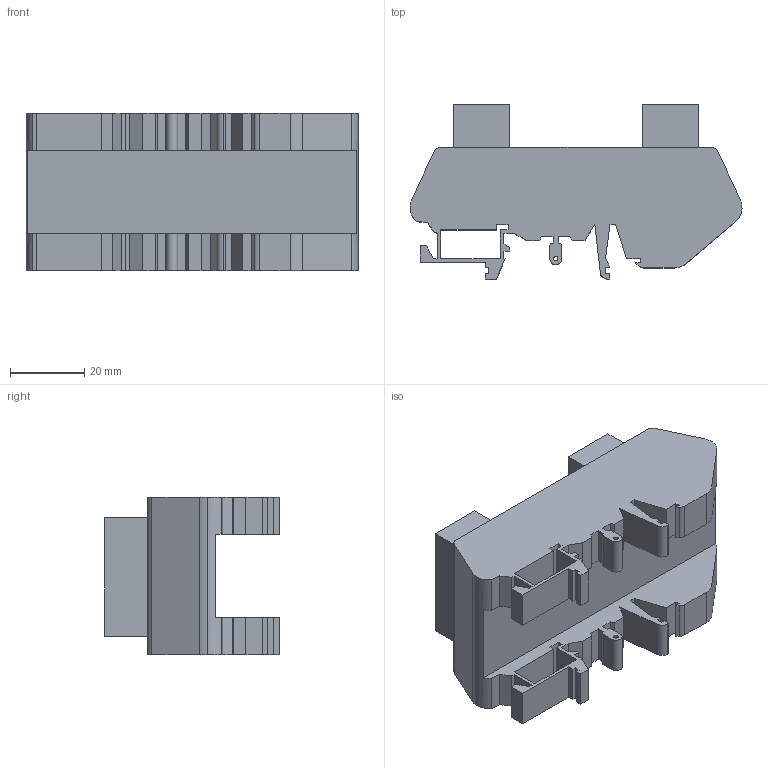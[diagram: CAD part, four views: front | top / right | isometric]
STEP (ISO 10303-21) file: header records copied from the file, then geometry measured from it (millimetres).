
FILE_DESCRIPTION (( 'STEP AP203' ), '1' );
FILE_NAME ('IntEncAmpF.STEP', '2025-04-16T14:24:03', ( '' ), ( '' ), 'SwSTEP 2.0', 'SolidWorks 2021', '' );
FILE_SCHEMA (( 'CONFIG_CONTROL_DESIGN' ));
Length unit declared in the file: millimetre
Products named in the file (1): IntEncAmpF
Bounding box: 89.47 x 47.03 x 42.5 mm (x, y, z)
Volume: 86589.3 mm3; surface area: 20898.1 mm2
Topology: 1 solids, 1 shells, 162 faces, 471 edges, 314 vertices
Faces by surface type: plane 141, cylinder 21
Entity records: 5374 total; most frequent: CARTESIAN_POINT 948, ORIENTED_EDGE 942, DIRECTION 843, EDGE_CURVE 471, VECTOR 425, LINE 425, VERTEX_POINT 314, AXIS2_PLACEMENT_3D 209
